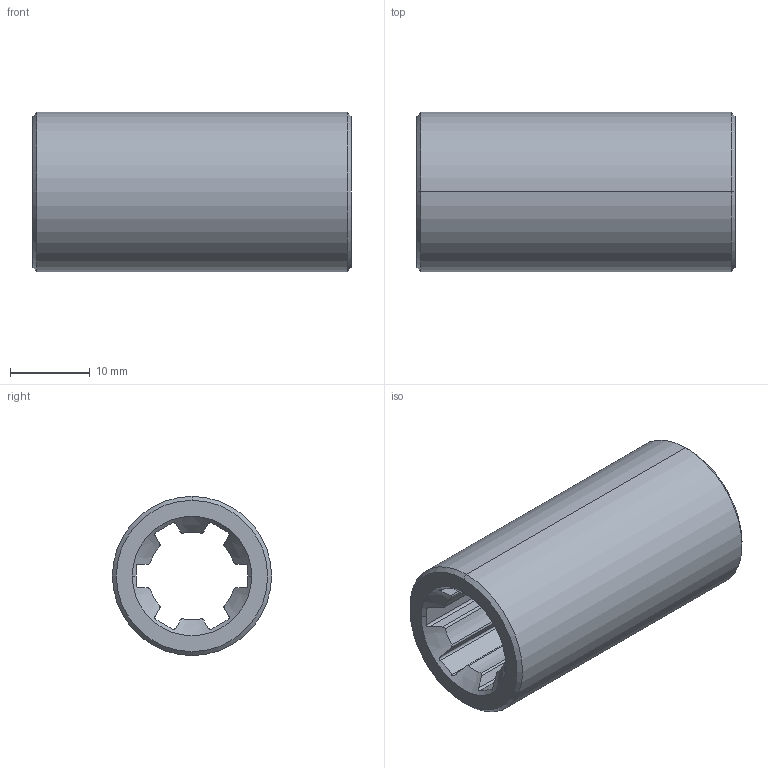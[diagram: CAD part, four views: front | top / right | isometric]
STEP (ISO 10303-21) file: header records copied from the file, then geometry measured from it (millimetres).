
FILE_DESCRIPTION((''),'2;1');
FILE_NAME('395-011-0000_PRT','2024-03-24T',('Brieden'),('ib-brieden'),'PRO/ENGINEER BY PARAMETRIC TECHNOLOGY CORPORATION, 2010160','PRO/ENGINEER BY PARAMETRIC TECHNOLOGY CORPORATION, 2010160','');
FILE_SCHEMA(('AUTOMOTIVE_DESIGN { 1 0 10303 214 1 1 1 1 }'));
Length unit declared in the file: millimetre
Products named in the file (1): 395-011-0000_PRT
Bounding box: 40 x 20 x 20 mm (x, y, z)
Volume: 7539.2 mm3; surface area: 4878.3 mm2
Topology: 1 solids, 1 shells, 60 faces, 170 edges, 112 vertices
Faces by surface type: cylinder 32, plane 20, cone 8
Entity records: 2847 total; most frequent: CARTESIAN_POINT 857, ORIENTED_EDGE 340, DIRECTION 226, PRESENTATION_STYLE_ASSIGNMENT 171, STYLED_ITEM 171, CURVE_STYLE 170, EDGE_CURVE 170, VERTEX_POINT 112
